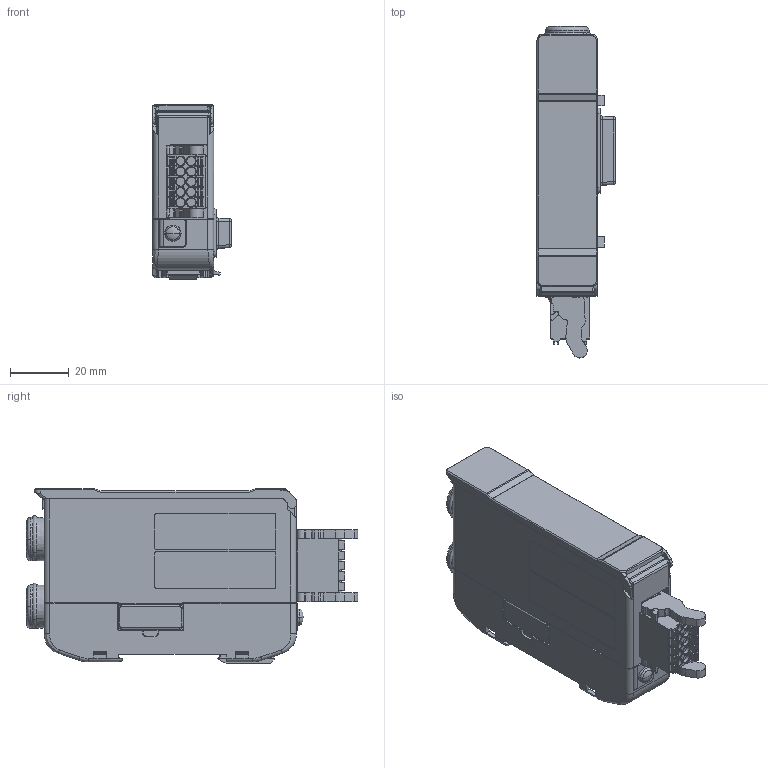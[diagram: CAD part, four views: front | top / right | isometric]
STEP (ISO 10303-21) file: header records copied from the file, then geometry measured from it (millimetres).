
FILE_DESCRIPTION(('Creo Elements/Direct Modeling STEP Export'),'2;1');
FILE_NAME('EJカウンタ外観3Dデータ.stp','2020-10-05T 8:46:49',(''),(''),'Creo Elements/Direct Modeling STEP processor for AP214 (Solid Model)','Creo Elements/Direct Modeling 18.1I 13-Aug-2016 (C) Parametric Technology GmbH','');
FILE_SCHEMA(('AUTOMOTIVE_DESIGN { 1 0 10303 214 1 1 1 1 }'));
Length unit declared in the file: millimetre
Products named in the file (7): GageConn.Cap_A-axis; Plug; Conn.Cover_2; MainUnit; GageConn.Cap_B-axis; Conn.Cover_1; 542-08x_EJ102N
Assembly tree (6 placements, depth 2):
  542-08x_EJ102N
    Conn.Cover_1
    GageConn.Cap_B-axis
    MainUnit
    Conn.Cover_2
    Plug
    GageConn.Cap_A-axis
Bounding box: 26.65 x 112.54 x 59.25 mm (x, y, z)
Volume: 104471.4 mm3; surface area: 29380.6 mm2
Topology: 6 solids, 7 shells, 1610 faces, 4446 edges, 2905 vertices
Faces by surface type: plane 969, cylinder 492, cone 56, bspline 43, torus 40, sphere 10
Entity records: 54163 total; most frequent: CARTESIAN_POINT 13136, ORIENTED_EDGE 8880, DIRECTION 8218, EDGE_CURVE 4440, VECTOR 3062, LINE 3062, VERTEX_POINT 2905, AXIS2_PLACEMENT_3D 2578
